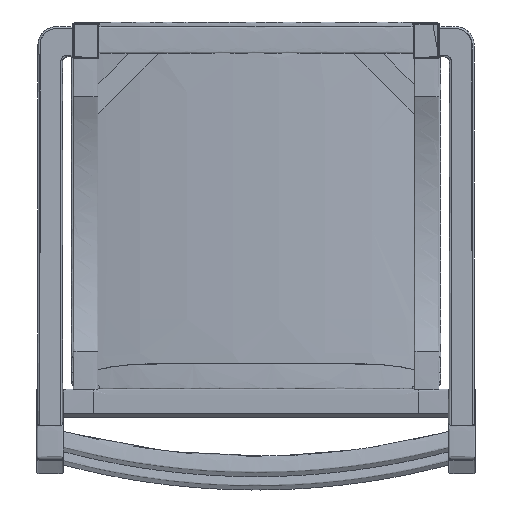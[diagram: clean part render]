
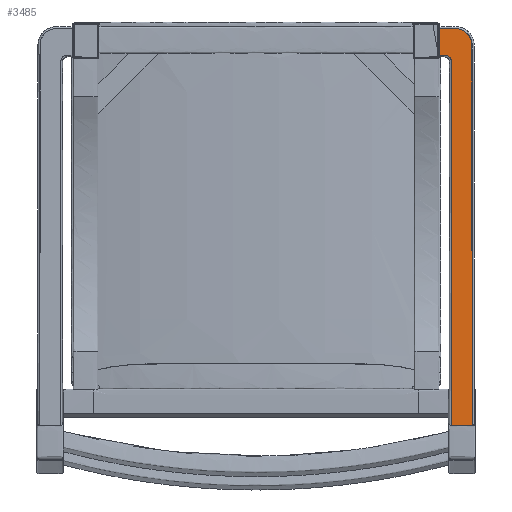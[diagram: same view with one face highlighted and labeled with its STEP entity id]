
A CAD part, front view. The second image highlights one B-rep face of the part: STEP entity #3485.
In plain terms, the highlighted planar face has unit normal (0, -1, 0).
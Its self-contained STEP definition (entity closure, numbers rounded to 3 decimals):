
#339=LINE('',#43495,#417);
#340=LINE('',#43519,#418);
#417=VECTOR('',#3743,10.);
#418=VECTOR('',#3744,10.);
#601=PLANE('',#3572);
#765=FACE_OUTER_BOUND('',#936,.T.);
#936=EDGE_LOOP('',(#3132,#3133,#3134,#3135));
#1383=B_SPLINE_CURVE_WITH_KNOTS('',3,(#43475,#43476,#43477,#43478,#43479,
#43480,#43481,#43482,#43483,#43484,#43485,#43486,#43487,#43488,#43489,#43490,
#43491,#43492,#43493),.UNSPECIFIED.,.F.,.F.,(4,3,3,3,3,3,4),(0.,0.125,0.25,
0.5,0.75,0.875,1.),.UNSPECIFIED.);
#1384=B_SPLINE_CURVE_WITH_KNOTS('',3,(#43497,#43498,#43499,#43500,#43501,
#43502,#43503,#43504,#43505,#43506,#43507,#43508,#43509,#43510,#43511,#43512,
#43513,#43514,#43515,#43516,#43517,#43518),.UNSPECIFIED.,.F.,.F.,(4,3,3,
3,3,3,3,4),(0.,0.125,0.196,0.25,0.5,0.75,0.875,1.),
 .UNSPECIFIED.);
#1893=VERTEX_POINT('',#43473);
#1894=VERTEX_POINT('',#43474);
#1895=VERTEX_POINT('',#43494);
#1896=VERTEX_POINT('',#43496);
#2458=EDGE_CURVE('',#1893,#1894,#1383,.T.);
#2459=EDGE_CURVE('',#1894,#1895,#339,.T.);
#2460=EDGE_CURVE('',#1895,#1896,#1384,.T.);
#2461=EDGE_CURVE('',#1896,#1893,#340,.T.);
#3132=ORIENTED_EDGE('',*,*,#2458,.T.);
#3133=ORIENTED_EDGE('',*,*,#2459,.T.);
#3134=ORIENTED_EDGE('',*,*,#2460,.T.);
#3135=ORIENTED_EDGE('',*,*,#2461,.T.);
#3485=ADVANCED_FACE('',(#765),#601,.T.);
#3572=AXIS2_PLACEMENT_3D('',#43472,#3741,#3742);
#3741=DIRECTION('center_axis',(0.,-1.,0.));
#3742=DIRECTION('ref_axis',(-1.,0.,0.));
#3743=DIRECTION('',(1.,0.,0.));
#3744=DIRECTION('',(0.,0.,-1.));
#43472=CARTESIAN_POINT('Origin',(210.103,0.179,201.999));
#43473=CARTESIAN_POINT('',(193.001,0.179,171.497));
#43474=CARTESIAN_POINT('',(205.001,0.179,-217.503));
#43475=CARTESIAN_POINT('Ctrl Pts',(193.001,0.179,171.497));
#43476=CARTESIAN_POINT('Ctrl Pts',(196.308,0.179,171.497));
#43477=CARTESIAN_POINT('Ctrl Pts',(198.187,0.179,171.481));
#43478=CARTESIAN_POINT('Ctrl Pts',(198.675,0.179,171.444));
#43479=CARTESIAN_POINT('Ctrl Pts',(199.163,0.179,171.408));
#43480=CARTESIAN_POINT('Ctrl Pts',(199.7,0.179,171.295));
#43481=CARTESIAN_POINT('Ctrl Pts',(200.224,0.179,171.117));
#43482=CARTESIAN_POINT('Ctrl Pts',(201.273,0.179,170.76));
#43483=CARTESIAN_POINT('Ctrl Pts',(202.168,0.179,170.203));
#43484=CARTESIAN_POINT('Ctrl Pts',(202.936,0.179,169.437));
#43485=CARTESIAN_POINT('Ctrl Pts',(203.703,0.179,168.672));
#43486=CARTESIAN_POINT('Ctrl Pts',(204.26,0.179,167.776));
#43487=CARTESIAN_POINT('Ctrl Pts',(204.639,0.179,166.666));
#43488=CARTESIAN_POINT('Ctrl Pts',(204.828,0.179,166.11));
#43489=CARTESIAN_POINT('Ctrl Pts',(204.941,0.179,164.468));
#43490=CARTESIAN_POINT('Ctrl Pts',(204.963,0.179,158.208));
#43491=CARTESIAN_POINT('Ctrl Pts',(204.984,0.179,151.948));
#43492=CARTESIAN_POINT('Ctrl Pts',(205.001,0.179,25.507));
#43493=CARTESIAN_POINT('Ctrl Pts',(205.001,0.179,-217.503));
#43494=CARTESIAN_POINT('',(227.001,0.179,-217.503));
#43495=CARTESIAN_POINT('',(205.001,0.179,-217.503));
#43496=CARTESIAN_POINT('',(193.001,0.179,199.497));
#43497=CARTESIAN_POINT('Ctrl Pts',(227.001,0.179,-217.503));
#43498=CARTESIAN_POINT('Ctrl Pts',(227.001,0.179,36.027));
#43499=CARTESIAN_POINT('Ctrl Pts',(226.954,0.179,168.409));
#43500=CARTESIAN_POINT('Ctrl Pts',(226.878,0.179,177.42));
#43501=CARTESIAN_POINT('Ctrl Pts',(226.834,0.179,182.569));
#43502=CARTESIAN_POINT('Ctrl Pts',(226.705,0.179,184.539));
#43503=CARTESIAN_POINT('Ctrl Pts',(226.496,0.179,185.451));
#43504=CARTESIAN_POINT('Ctrl Pts',(226.339,0.179,186.135));
#43505=CARTESIAN_POINT('Ctrl Pts',(226.175,0.179,186.711));
#43506=CARTESIAN_POINT('Ctrl Pts',(225.984,0.179,187.275));
#43507=CARTESIAN_POINT('Ctrl Pts',(225.091,0.179,189.905));
#43508=CARTESIAN_POINT('Ctrl Pts',(223.659,0.179,192.205));
#43509=CARTESIAN_POINT('Ctrl Pts',(221.687,0.179,194.178));
#43510=CARTESIAN_POINT('Ctrl Pts',(219.715,0.179,196.151));
#43511=CARTESIAN_POINT('Ctrl Pts',(217.415,0.179,197.584));
#43512=CARTESIAN_POINT('Ctrl Pts',(214.716,0.179,198.502));
#43513=CARTESIAN_POINT('Ctrl Pts',(213.366,0.179,198.961));
#43514=CARTESIAN_POINT('Ctrl Pts',(211.942,0.179,199.253));
#43515=CARTESIAN_POINT('Ctrl Pts',(210.564,0.179,199.352));
#43516=CARTESIAN_POINT('Ctrl Pts',(209.187,0.179,199.45));
#43517=CARTESIAN_POINT('Ctrl Pts',(203.349,0.179,199.497));
#43518=CARTESIAN_POINT('Ctrl Pts',(193.001,0.179,199.497));
#43519=CARTESIAN_POINT('',(193.001,0.179,199.497));
